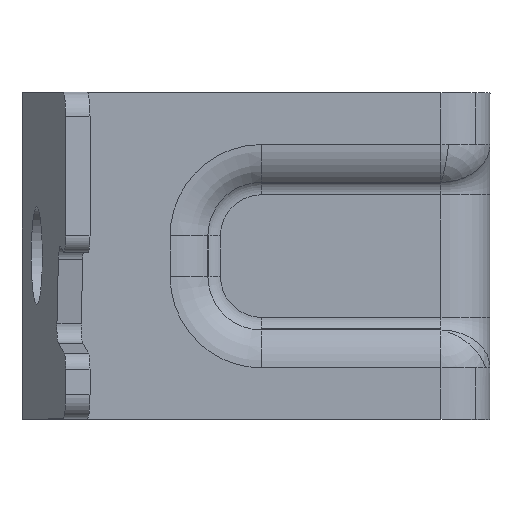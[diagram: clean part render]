
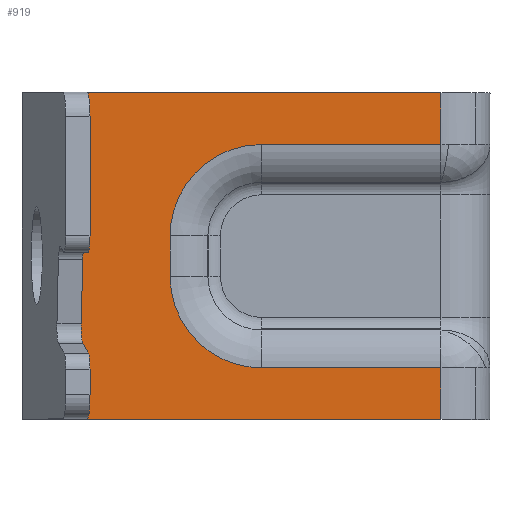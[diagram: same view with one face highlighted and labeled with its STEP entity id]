
A CAD part, top view. The second image highlights one B-rep face of the part: STEP entity #919.
In plain terms, the highlighted planar face has unit normal (0, 0, 1).
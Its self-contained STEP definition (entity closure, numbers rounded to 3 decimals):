
#834=AXIS2_PLACEMENT_3D('Plane Axis2P3D',#831,#832,#833) ;
#459=CARTESIAN_POINT('Line Origine',(1498.344,-661.998,335.)) ;
#463=CARTESIAN_POINT('Vertex',(1475.688,-661.998,335.)) ;
#465=CARTESIAN_POINT('Vertex',(1521.,-661.998,335.)) ;
#548=CARTESIAN_POINT('Line Origine',(1475.688,-642.608,335.)) ;
#552=CARTESIAN_POINT('Vertex',(1475.688,-621.998,335.)) ;
#591=CARTESIAN_POINT('Line Origine',(1498.344,-621.998,335.)) ;
#595=CARTESIAN_POINT('Vertex',(1521.,-621.998,335.)) ;
#831=CARTESIAN_POINT('Axis2P3D Location',(1521.,-576.998,335.)) ;
#836=CARTESIAN_POINT('Line Origine',(1521.,-658.83,335.)) ;
#840=CARTESIAN_POINT('Vertex',(1521.,-655.662,335.)) ;
#843=CARTESIAN_POINT('Line Origine',(1510.,-655.662,335.)) ;
#847=CARTESIAN_POINT('Vertex',(1499.,-655.662,335.)) ;
#851=CARTESIAN_POINT('Control Point',(1487.836,-644.498,335.)) ;
#852=CARTESIAN_POINT('Control Point',(1487.836,-645.643,335.)) ;
#853=CARTESIAN_POINT('Control Point',(1487.983,-646.789,335.)) ;
#854=CARTESIAN_POINT('Control Point',(1488.276,-647.909,335.)) ;
#855=CARTESIAN_POINT('Control Point',(1489.145,-650.05,335.)) ;
#856=CARTESIAN_POINT('Control Point',(1490.526,-651.902,335.)) ;
#857=CARTESIAN_POINT('Control Point',(1491.333,-652.734,335.)) ;
#858=CARTESIAN_POINT('Control Point',(1493.141,-654.173,335.)) ;
#859=CARTESIAN_POINT('Control Point',(1495.253,-655.109,335.)) ;
#860=CARTESIAN_POINT('Control Point',(1496.363,-655.438,335.)) ;
#861=CARTESIAN_POINT('Control Point',(1497.573,-655.631,335.)) ;
#862=CARTESIAN_POINT('Control Point',(1498.789,-655.66,335.)) ;
#863=CARTESIAN_POINT('Control Point',(1498.859,-655.661,335.)) ;
#864=CARTESIAN_POINT('Control Point',(1498.929,-655.662,335.)) ;
#865=CARTESIAN_POINT('Control Point',(1499.,-655.662,335.)) ;
#866=CARTESIAN_POINT('Vertex',(1487.836,-644.498,335.)) ;
#869=CARTESIAN_POINT('Line Origine',(1487.836,-641.998,335.)) ;
#873=CARTESIAN_POINT('Vertex',(1487.836,-639.498,335.)) ;
#877=CARTESIAN_POINT('Control Point',(1499.,-628.335,335.)) ;
#878=CARTESIAN_POINT('Control Point',(1497.854,-628.335,335.)) ;
#879=CARTESIAN_POINT('Control Point',(1496.709,-628.481,335.)) ;
#880=CARTESIAN_POINT('Control Point',(1495.589,-628.775,335.)) ;
#881=CARTESIAN_POINT('Control Point',(1493.448,-629.644,335.)) ;
#882=CARTESIAN_POINT('Control Point',(1491.596,-631.025,335.)) ;
#883=CARTESIAN_POINT('Control Point',(1490.764,-631.832,335.)) ;
#884=CARTESIAN_POINT('Control Point',(1489.325,-633.639,335.)) ;
#885=CARTESIAN_POINT('Control Point',(1488.389,-635.751,335.)) ;
#886=CARTESIAN_POINT('Control Point',(1488.06,-636.862,335.)) ;
#887=CARTESIAN_POINT('Control Point',(1487.866,-638.072,335.)) ;
#888=CARTESIAN_POINT('Control Point',(1487.838,-639.287,335.)) ;
#889=CARTESIAN_POINT('Control Point',(1487.837,-639.357,335.)) ;
#890=CARTESIAN_POINT('Control Point',(1487.836,-639.428,335.)) ;
#891=CARTESIAN_POINT('Control Point',(1487.836,-639.498,335.)) ;
#892=CARTESIAN_POINT('Vertex',(1499.,-628.335,335.)) ;
#895=CARTESIAN_POINT('Line Origine',(1510.,-628.335,335.)) ;
#899=CARTESIAN_POINT('Vertex',(1521.,-628.335,335.)) ;
#902=CARTESIAN_POINT('Line Origine',(1521.,-625.166,335.)) ;
#460=DIRECTION('Vector Direction',(1.,0.,0.)) ;
#549=DIRECTION('Vector Direction',(0.,1.,0.)) ;
#592=DIRECTION('Vector Direction',(-1.,0.,0.)) ;
#832=DIRECTION('Axis2P3D Direction',(0.,0.,1.)) ;
#833=DIRECTION('Axis2P3D XDirection',(-1.,0.,0.)) ;
#837=DIRECTION('Vector Direction',(0.,1.,0.)) ;
#844=DIRECTION('Vector Direction',(1.,0.,0.)) ;
#870=DIRECTION('Vector Direction',(0.,-1.,0.)) ;
#896=DIRECTION('Vector Direction',(-1.,0.,0.)) ;
#903=DIRECTION('Vector Direction',(0.,1.,0.)) ;
#461=VECTOR('Line Direction',#460,1.) ;
#550=VECTOR('Line Direction',#549,1.) ;
#593=VECTOR('Line Direction',#592,1.) ;
#838=VECTOR('Line Direction',#837,1.) ;
#845=VECTOR('Line Direction',#844,1.) ;
#871=VECTOR('Line Direction',#870,1.) ;
#897=VECTOR('Line Direction',#896,1.) ;
#904=VECTOR('Line Direction',#903,1.) ;
#908=ORIENTED_EDGE('',*,*,#467,.T.) ;
#909=ORIENTED_EDGE('',*,*,#842,.F.) ;
#910=ORIENTED_EDGE('',*,*,#849,.F.) ;
#911=ORIENTED_EDGE('',*,*,#868,.F.) ;
#912=ORIENTED_EDGE('',*,*,#875,.F.) ;
#913=ORIENTED_EDGE('',*,*,#894,.F.) ;
#914=ORIENTED_EDGE('',*,*,#901,.F.) ;
#915=ORIENTED_EDGE('',*,*,#906,.F.) ;
#916=ORIENTED_EDGE('',*,*,#597,.T.) ;
#917=ORIENTED_EDGE('',*,*,#554,.T.) ;
#919=ADVANCED_FACE('\X2\51E04F554F53\X0\.2',(#918),#835,.T.) ;
#850=B_SPLINE_CURVE_WITH_KNOTS('',5,(#851,#852,#853,#854,#855,#856,#857,#858,#859,#860,#861,#862,#863,#864,#865),.UNSPECIFIED.,.F.,.U.,(6,3,3,3,6),(0.,8.121,16.246,24.367,24.865),.UNSPECIFIED.) ;
#876=B_SPLINE_CURVE_WITH_KNOTS('',5,(#877,#878,#879,#880,#881,#882,#883,#884,#885,#886,#887,#888,#889,#890,#891),.UNSPECIFIED.,.F.,.U.,(6,3,3,3,6),(0.,8.121,16.246,24.367,24.865),.UNSPECIFIED.) ;
#467=EDGE_CURVE('',#464,#466,#462,.T.) ;
#554=EDGE_CURVE('',#553,#464,#551,.F.) ;
#597=EDGE_CURVE('',#596,#553,#594,.T.) ;
#842=EDGE_CURVE('',#841,#466,#839,.F.) ;
#849=EDGE_CURVE('',#848,#841,#846,.T.) ;
#868=EDGE_CURVE('',#867,#848,#850,.T.) ;
#875=EDGE_CURVE('',#874,#867,#872,.T.) ;
#894=EDGE_CURVE('',#893,#874,#876,.T.) ;
#901=EDGE_CURVE('',#900,#893,#898,.T.) ;
#906=EDGE_CURVE('',#596,#900,#905,.F.) ;
#907=EDGE_LOOP('',(#908,#909,#910,#911,#912,#913,#914,#915,#916,#917)) ;
#918=FACE_OUTER_BOUND('',#907,.T.) ;
#462=LINE('Line',#459,#461) ;
#551=LINE('Line',#548,#550) ;
#594=LINE('Line',#591,#593) ;
#839=LINE('Line',#836,#838) ;
#846=LINE('Line',#843,#845) ;
#872=LINE('Line',#869,#871) ;
#898=LINE('Line',#895,#897) ;
#905=LINE('Line',#902,#904) ;
#835=PLANE('Plane',#834) ;
#464=VERTEX_POINT('',#463) ;
#466=VERTEX_POINT('',#465) ;
#553=VERTEX_POINT('',#552) ;
#596=VERTEX_POINT('',#595) ;
#841=VERTEX_POINT('',#840) ;
#848=VERTEX_POINT('',#847) ;
#867=VERTEX_POINT('',#866) ;
#874=VERTEX_POINT('',#873) ;
#893=VERTEX_POINT('',#892) ;
#900=VERTEX_POINT('',#899) ;
